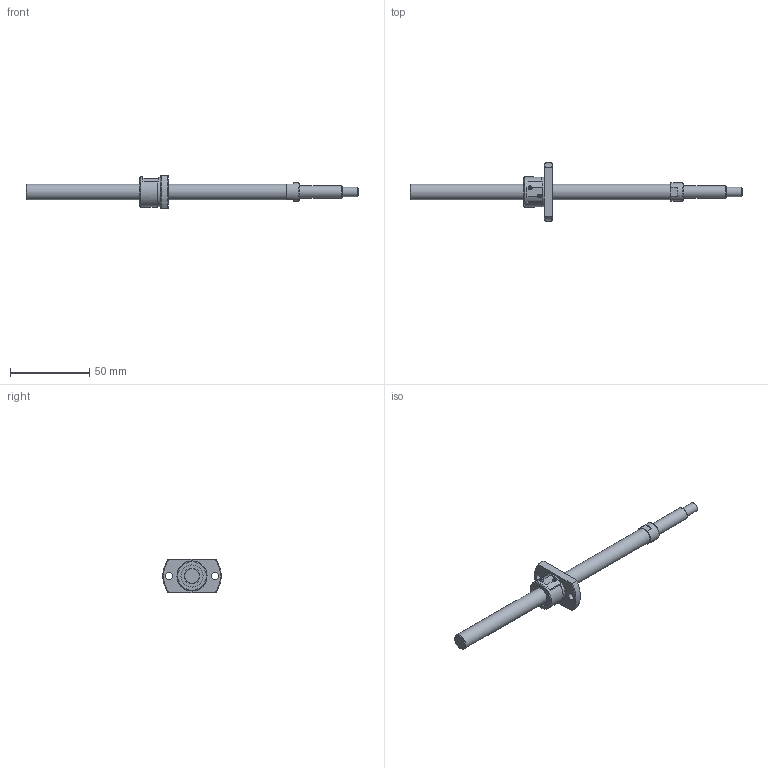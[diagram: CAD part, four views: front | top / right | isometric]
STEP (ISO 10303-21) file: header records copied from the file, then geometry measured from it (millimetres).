
FILE_DESCRIPTION(/* description */ ('STEP AP214'),/* implementation_level */ '2;1');
FILE_NAME(/* name */ 'SG1001-162R210C5A0X(72)',/* time_stamp */ '2026-07-24T15:10:39+02:00',/* author */ ('License CC BY-ND 4.0'),/* organization */ ('CADENAS'),/* preprocessor_version */ 'ST-DEVELOPER v20',/* originating_system */ 'PARTsolutions',/* authorisation */ ' ');
FILE_SCHEMA (('AUTOMOTIVE_DESIGN {1 0 10303 214 3 1 1}'));
Length unit declared in the file: millimetre
Products named in the file (3): SG1001-162R210C5A0X(72); SG1001-162R210C5A_shaft; SG1001 C5_nut
Assembly tree (2 placements, depth 2):
  SG1001-162R210C5A0X(72)
    SG1001-162R210C5A_shaft
    SG1001 C5_nut
Bounding box: 210 x 36.86 x 21 mm (x, y, z)
Volume: 20892.3 mm3; surface area: 9803.5 mm2
Topology: 2 solids, 2 shells, 74 faces, 183 edges, 120 vertices
Faces by surface type: plane 35, cylinder 25, cone 13, torus 1
Full cylindrical faces by diameter (mm): 4.5 x2, 6 x1, 8 x1, 10 x2, 11.5 x1, 14 x2, 18.5 x1, 19 x1
Entity records: 2125 total; most frequent: CARTESIAN_POINT 407, DIRECTION 354, ORIENTED_EDGE 304, EDGE_CURVE 152, AXIS2_PLACEMENT_3D 147, VERTEX_POINT 110, EDGE_LOOP 108, FACE_BOUND 108
